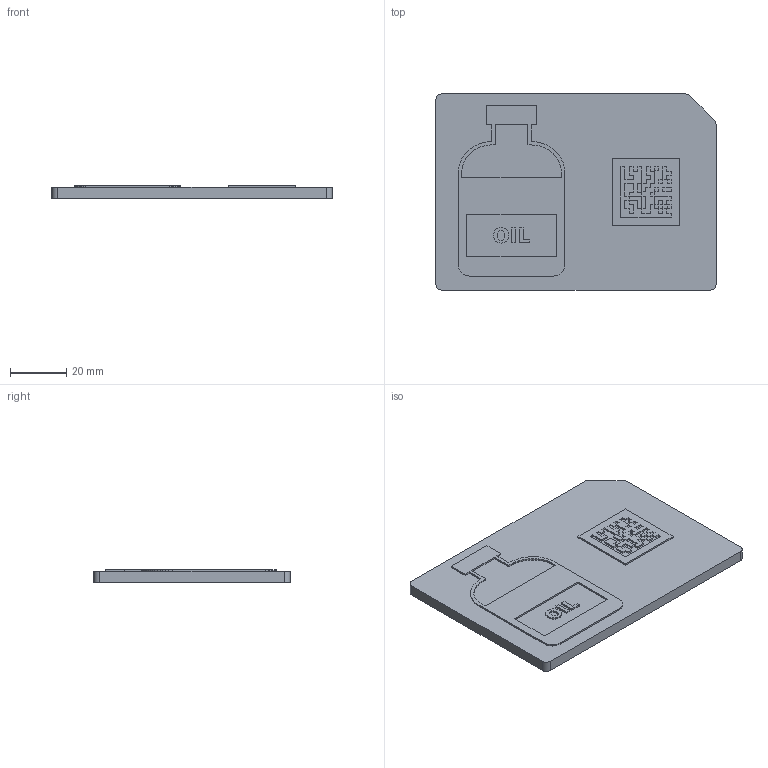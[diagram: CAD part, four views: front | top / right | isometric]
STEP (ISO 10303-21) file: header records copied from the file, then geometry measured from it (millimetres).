
FILE_DESCRIPTION(('Open CASCADE Model'),'2;1');
FILE_NAME('Open CASCADE Shape Model','2026-10-14T18:10:06',('Author'),( 'Open CASCADE'),'Open CASCADE STEP processor 7.9','Open CASCADE 7.9' ,'Unknown');
FILE_SCHEMA(('AUTOMOTIVE_DESIGN { 1 0 10303 214 1 1 1 1 }'));
Length unit declared in the file: millimetre
Products named in the file (3): SN-4841; SN-4841_base_dark; SN-4841_features_red
Assembly tree (2 placements, depth 2):
  SN-4841
    SN-4841_base_dark
    SN-4841_features_red
Bounding box: 100 x 70 x 4.6 mm (x, y, z)
Volume: 28672.5 mm3; surface area: 19932.7 mm2
Topology: 6 solids, 6 shells, 607 faces, 1722 edges, 1148 vertices
Faces by surface type: plane 602, cylinder 5
Entity records: 41260 total; most frequent: CARTESIAN_POINT 7500, DIRECTION 5830, LINE 4582, VECTOR 4582, ORIENTED_EDGE 3444, PCURVE 3444, DEFINITIONAL_REPRESENTATION 3444, EDGE_CURVE 1722
